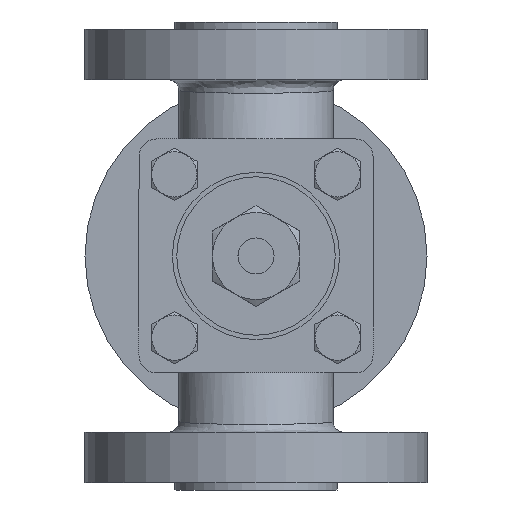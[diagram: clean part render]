
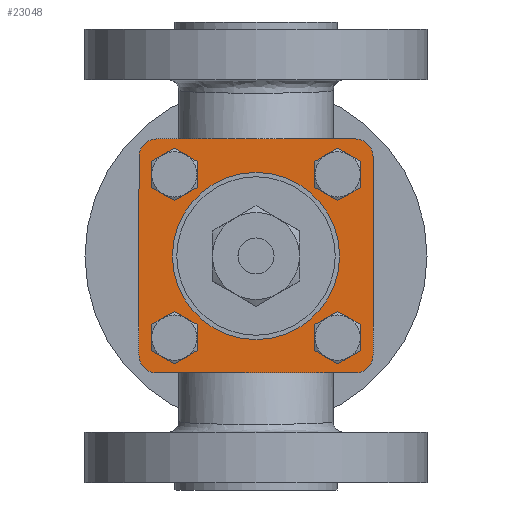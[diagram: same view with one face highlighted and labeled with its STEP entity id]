
A CAD part, front view. The second image highlights one B-rep face of the part: STEP entity #23048.
In plain terms, the highlighted planar face has unit normal (0, -1, 0).
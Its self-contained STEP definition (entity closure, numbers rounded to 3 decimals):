
#22789=CARTESIAN_POINT('',(31.036,-85.915,96.036));
#22790=VERTEX_POINT('',#22789);
#22799=CARTESIAN_POINT('',(32.5,-85.915,92.5));
#22800=VERTEX_POINT('',#22799);
#22801=CARTESIAN_POINT('',(27.5,-85.915,92.5));
#22802=DIRECTION('',(0.,1.0,0.));
#22803=DIRECTION('',(0.707,0.,0.707));
#22804=AXIS2_PLACEMENT_3D('',#22801,#22802,#22803);
#22805=CIRCLE('',#22804,5.0);
#22806=EDGE_CURVE('',#22790,#22800,#22805,.T.);
#22833=CARTESIAN_POINT('',(31.036,-85.915,33.964));
#22834=VERTEX_POINT('',#22833);
#22850=CARTESIAN_POINT('',(32.5,-85.915,37.5));
#22851=VERTEX_POINT('',#22850);
#22858=CARTESIAN_POINT('',(27.5,-85.915,37.5));
#22859=DIRECTION('',(0.,1.0,0.));
#22860=DIRECTION('',(0.707,0.,-0.707));
#22861=AXIS2_PLACEMENT_3D('',#22858,#22859,#22860);
#22862=CIRCLE('',#22861,5.0);
#22863=EDGE_CURVE('',#22851,#22834,#22862,.T.);
#22873=CARTESIAN_POINT('',(-31.036,-85.915,33.964));
#22874=VERTEX_POINT('',#22873);
#22883=CARTESIAN_POINT('',(-32.5,-85.915,37.5));
#22884=VERTEX_POINT('',#22883);
#22885=CARTESIAN_POINT('',(-27.5,-85.915,37.5));
#22886=DIRECTION('',(0.,1.0,0.));
#22887=DIRECTION('',(-0.707,0.,-0.707));
#22888=AXIS2_PLACEMENT_3D('',#22885,#22886,#22887);
#22889=CIRCLE('',#22888,5.0);
#22890=EDGE_CURVE('',#22874,#22884,#22889,.T.);
#22917=CARTESIAN_POINT('',(-31.036,-85.915,96.036));
#22918=VERTEX_POINT('',#22917);
#22934=CARTESIAN_POINT('',(-32.5,-85.915,92.5));
#22935=VERTEX_POINT('',#22934);
#22942=CARTESIAN_POINT('',(-27.5,-85.915,92.5));
#22943=DIRECTION('',(0.,1.0,0.));
#22944=DIRECTION('',(-0.707,0.,0.707));
#22945=AXIS2_PLACEMENT_3D('',#22942,#22943,#22944);
#22946=CIRCLE('',#22945,5.0);
#22947=EDGE_CURVE('',#22935,#22918,#22946,.T.);
#22958=CARTESIAN_POINT('',(-27.5,-85.915,97.5));
#22959=VERTEX_POINT('',#22958);
#22960=CARTESIAN_POINT('',(-27.5,-85.915,92.5));
#22961=DIRECTION('',(0.,1.0,0.));
#22962=DIRECTION('',(-0.707,0.,0.707));
#22963=AXIS2_PLACEMENT_3D('',#22960,#22961,#22962);
#22964=CIRCLE('',#22963,5.0);
#22965=EDGE_CURVE('',#22918,#22959,#22964,.T.);
#22985=CARTESIAN_POINT('',(0.0,-85.915,65.));
#22986=DIRECTION('',(0.0,1.0,0.0));
#22987=DIRECTION('',(1.0,0.0,0.0));
#22988=AXIS2_PLACEMENT_3D('',#22985,#22986,#22987);
#22989=PLANE('',#22988);
#22990=ORIENTED_EDGE('',*,*,#22947,.F.);
#22991=CARTESIAN_POINT('',(-32.5,-85.915,37.5));
#22992=DIRECTION('',(0.0,0.0,1.0));
#22993=VECTOR('',#22992,55.);
#22994=LINE('',#22991,#22993);
#22995=EDGE_CURVE('',#22884,#22935,#22994,.T.);
#22996=ORIENTED_EDGE('',*,*,#22995,.F.);
#22997=ORIENTED_EDGE('',*,*,#22890,.F.);
#22998=CARTESIAN_POINT('',(-27.5,-85.915,32.5));
#22999=VERTEX_POINT('',#22998);
#23000=CARTESIAN_POINT('',(-27.5,-85.915,37.5));
#23001=DIRECTION('',(0.,1.0,0.));
#23002=DIRECTION('',(-0.707,0.,-0.707));
#23003=AXIS2_PLACEMENT_3D('',#23000,#23001,#23002);
#23004=CIRCLE('',#23003,5.0);
#23005=EDGE_CURVE('',#22999,#22874,#23004,.T.);
#23006=ORIENTED_EDGE('',*,*,#23005,.F.);
#23007=CARTESIAN_POINT('',(27.5,-85.915,32.5));
#23008=VERTEX_POINT('',#23007);
#23009=CARTESIAN_POINT('',(27.5,-85.915,32.5));
#23010=DIRECTION('',(-1.0,0.0,0.0));
#23011=VECTOR('',#23010,55.0);
#23012=LINE('',#23009,#23011);
#23013=EDGE_CURVE('',#23008,#22999,#23012,.T.);
#23014=ORIENTED_EDGE('',*,*,#23013,.F.);
#23015=CARTESIAN_POINT('',(27.5,-85.915,37.5));
#23016=DIRECTION('',(0.,1.0,0.));
#23017=DIRECTION('',(0.707,0.,-0.707));
#23018=AXIS2_PLACEMENT_3D('',#23015,#23016,#23017);
#23019=CIRCLE('',#23018,5.0);
#23020=EDGE_CURVE('',#22834,#23008,#23019,.T.);
#23021=ORIENTED_EDGE('',*,*,#23020,.F.);
#23022=ORIENTED_EDGE('',*,*,#22863,.F.);
#23023=CARTESIAN_POINT('',(32.5,-85.915,92.5));
#23024=DIRECTION('',(0.0,0.0,-1.0));
#23025=VECTOR('',#23024,55.);
#23026=LINE('',#23023,#23025);
#23027=EDGE_CURVE('',#22800,#22851,#23026,.T.);
#23028=ORIENTED_EDGE('',*,*,#23027,.F.);
#23029=ORIENTED_EDGE('',*,*,#22806,.F.);
#23030=CARTESIAN_POINT('',(27.5,-85.915,97.5));
#23031=VERTEX_POINT('',#23030);
#23032=CARTESIAN_POINT('',(27.5,-85.915,92.5));
#23033=DIRECTION('',(0.,1.0,0.));
#23034=DIRECTION('',(0.707,0.,0.707));
#23035=AXIS2_PLACEMENT_3D('',#23032,#23033,#23034);
#23036=CIRCLE('',#23035,5.0);
#23037=EDGE_CURVE('',#23031,#22790,#23036,.T.);
#23038=ORIENTED_EDGE('',*,*,#23037,.F.);
#23039=CARTESIAN_POINT('',(-27.5,-85.915,97.5));
#23040=DIRECTION('',(1.0,0.0,0.0));
#23041=VECTOR('',#23040,55.);
#23042=LINE('',#23039,#23041);
#23043=EDGE_CURVE('',#22959,#23031,#23042,.T.);
#23044=ORIENTED_EDGE('',*,*,#23043,.F.);
#23045=ORIENTED_EDGE('',*,*,#22965,.F.);
#23046=EDGE_LOOP('',(#22990,#22996,#22997,#23006,#23014,#23021,#23022,#23028,#23029,#23038,#23044,#23045));
#23047=FACE_OUTER_BOUND('',#23046,.T.);
#23048=ADVANCED_FACE('',(#23047),#22989,.F.);
